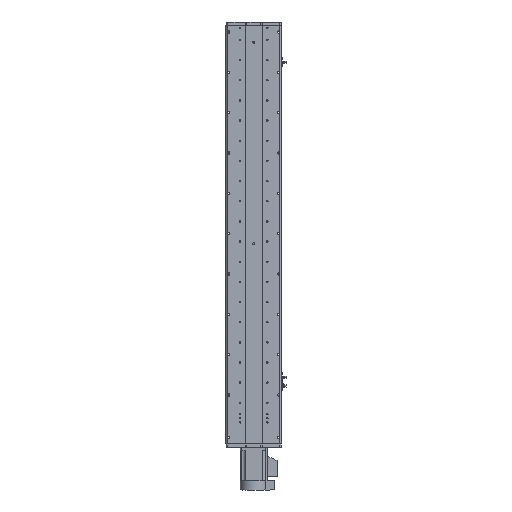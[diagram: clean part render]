
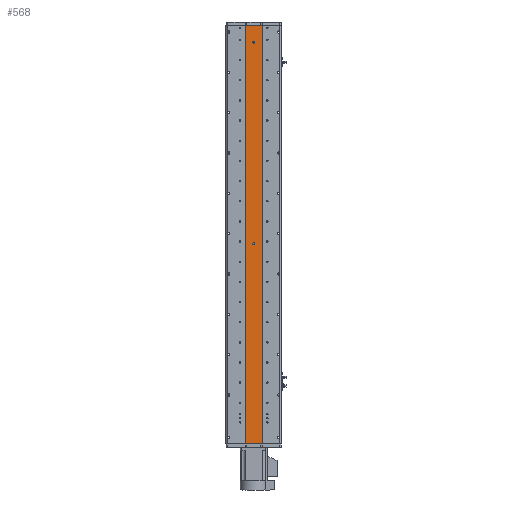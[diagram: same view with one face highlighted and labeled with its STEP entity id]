
A CAD part, front view. The second image highlights one B-rep face of the part: STEP entity #568.
In plain terms, the highlighted planar face has unit normal (0, -1, 0).
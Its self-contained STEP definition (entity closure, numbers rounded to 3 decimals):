
#242 = CARTESIAN_POINT ( 'NONE',  ( 0., 1., 576. ) ) ;
#568 = ADVANCED_FACE ( 'NONE', ( #2099, #35920, #18042 ), #11885, .F. ) ;
#656 = ORIENTED_EDGE ( 'NONE', *, *, #39707, .F. ) ;
#2099 = FACE_BOUND ( 'NONE', #4619, .T. ) ;
#2412 = CARTESIAN_POINT ( 'NONE',  ( 0., 1., 573. ) ) ;
#2416 = DIRECTION ( 'NONE',  ( 0., 1., 0. ) ) ;
#3153 = LINE ( 'NONE', #8789, #16566 ) ;
#4023 = CARTESIAN_POINT ( 'NONE',  ( 25., 1., -623. ) ) ;
#4619 = EDGE_LOOP ( 'NONE', ( #656, #17531 ) ) ;
#5238 = EDGE_CURVE ( 'NONE', #19439, #32723, #5676, .T. ) ;
#5620 = DIRECTION ( 'NONE',  ( 0., 0., -1. ) ) ;
#5676 = CIRCLE ( 'NONE', #24686, 3. ) ;
#5723 = ORIENTED_EDGE ( 'NONE', *, *, #11119, .T. ) ;
#7227 = DIRECTION ( 'NONE',  ( 1., 0., 0. ) ) ;
#8789 = CARTESIAN_POINT ( 'NONE',  ( 25., 1., 623. ) ) ;
#10398 = VERTEX_POINT ( 'NONE', #33748 ) ;
#10780 = VECTOR ( 'NONE', #29660, 1000. ) ;
#11119 = EDGE_CURVE ( 'NONE', #10398, #19416, #25753, .T. ) ;
#11366 = CARTESIAN_POINT ( 'NONE',  ( 25., 1., 623. ) ) ;
#11651 = CIRCLE ( 'NONE', #28086, 3. ) ;
#11885 = PLANE ( 'NONE',  #31426 ) ;
#12204 = EDGE_CURVE ( 'NONE', #18710, #13000, #21646, .T. ) ;
#12216 = DIRECTION ( 'NONE',  ( 0., -1., 0. ) ) ;
#12259 = ORIENTED_EDGE ( 'NONE', *, *, #32097, .F. ) ;
#13000 = VERTEX_POINT ( 'NONE', #20642 ) ;
#13264 = CARTESIAN_POINT ( 'NONE',  ( 0., 1., -27. ) ) ;
#13331 = DIRECTION ( 'NONE',  ( 0., -1., 0. ) ) ;
#13812 = LINE ( 'NONE', #19224, #17800 ) ;
#13987 = ORIENTED_EDGE ( 'NONE', *, *, #30167, .T. ) ;
#15857 = ORIENTED_EDGE ( 'NONE', *, *, #20686, .F. ) ;
#16439 = DIRECTION ( 'NONE',  ( 0., 0., -1. ) ) ;
#16566 = VECTOR ( 'NONE', #31037, 1000. ) ;
#17291 = CIRCLE ( 'NONE', #38209, 3. ) ;
#17531 = ORIENTED_EDGE ( 'NONE', *, *, #12204, .F. ) ;
#17800 = VECTOR ( 'NONE', #38119, 1000. ) ;
#18042 = FACE_OUTER_BOUND ( 'NONE', #19993, .T. ) ;
#18710 = VERTEX_POINT ( 'NONE', #242 ) ;
#18875 = EDGE_LOOP ( 'NONE', ( #19159, #23042 ) ) ;
#19159 = ORIENTED_EDGE ( 'NONE', *, *, #31294, .F. ) ;
#19224 = CARTESIAN_POINT ( 'NONE',  ( 25., 1., 623. ) ) ;
#19416 = VERTEX_POINT ( 'NONE', #24160 ) ;
#19439 = VERTEX_POINT ( 'NONE', #33586 ) ;
#19993 = EDGE_LOOP ( 'NONE', ( #13987, #15857, #12259, #5723 ) ) ;
#20642 = CARTESIAN_POINT ( 'NONE',  ( 0., 1., 570. ) ) ;
#20686 = EDGE_CURVE ( 'NONE', #24851, #26923, #13812, .T. ) ;
#21503 = CARTESIAN_POINT ( 'NONE',  ( 25., 1., 623. ) ) ;
#21646 = CIRCLE ( 'NONE', #29172, 3. ) ;
#23042 = ORIENTED_EDGE ( 'NONE', *, *, #5238, .F. ) ;
#24160 = CARTESIAN_POINT ( 'NONE',  ( -25., 1., -623. ) ) ;
#24686 = AXIS2_PLACEMENT_3D ( 'NONE', #32356, #13331, #35565 ) ;
#24711 = DIRECTION ( 'NONE',  ( 0., -1., 0. ) ) ;
#24716 = DIRECTION ( 'NONE',  ( 0., 0., 1. ) ) ;
#24851 = VERTEX_POINT ( 'NONE', #11366 ) ;
#25753 = LINE ( 'NONE', #26425, #10780 ) ;
#26425 = CARTESIAN_POINT ( 'NONE',  ( -25., 1., 623. ) ) ;
#26923 = VERTEX_POINT ( 'NONE', #38171 ) ;
#28086 = AXIS2_PLACEMENT_3D ( 'NONE', #13264, #35493, #16439 ) ;
#29172 = AXIS2_PLACEMENT_3D ( 'NONE', #2412, #24711, #5620 ) ;
#29660 = DIRECTION ( 'NONE',  ( 0., 0., -1. ) ) ;
#30167 = EDGE_CURVE ( 'NONE', #19416, #26923, #40112, .T. ) ;
#31037 = DIRECTION ( 'NONE',  ( 1., 0., 0. ) ) ;
#31261 = CARTESIAN_POINT ( 'NONE',  ( 0., 1., 573. ) ) ;
#31294 = EDGE_CURVE ( 'NONE', #32723, #19439, #11651, .T. ) ;
#31426 = AXIS2_PLACEMENT_3D ( 'NONE', #21503, #2416, #24716 ) ;
#31669 = VECTOR ( 'NONE', #7227, 1000. ) ;
#32097 = EDGE_CURVE ( 'NONE', #10398, #24851, #3153, .T. ) ;
#32356 = CARTESIAN_POINT ( 'NONE',  ( 0., 1., -27. ) ) ;
#32723 = VERTEX_POINT ( 'NONE', #39264 ) ;
#33586 = CARTESIAN_POINT ( 'NONE',  ( 0., 1., -24. ) ) ;
#33748 = CARTESIAN_POINT ( 'NONE',  ( -25., 1., 623. ) ) ;
#34450 = DIRECTION ( 'NONE',  ( 0., 0., -1. ) ) ;
#35493 = DIRECTION ( 'NONE',  ( 0., -1., 0. ) ) ;
#35565 = DIRECTION ( 'NONE',  ( 0., 0., -1. ) ) ;
#35920 = FACE_BOUND ( 'NONE', #18875, .T. ) ;
#38119 = DIRECTION ( 'NONE',  ( 0., 0., -1. ) ) ;
#38171 = CARTESIAN_POINT ( 'NONE',  ( 25., 1., -623. ) ) ;
#38209 = AXIS2_PLACEMENT_3D ( 'NONE', #31261, #12216, #34450 ) ;
#39264 = CARTESIAN_POINT ( 'NONE',  ( 0., 1., -30. ) ) ;
#39707 = EDGE_CURVE ( 'NONE', #13000, #18710, #17291, .T. ) ;
#40112 = LINE ( 'NONE', #4023, #31669 ) ;
